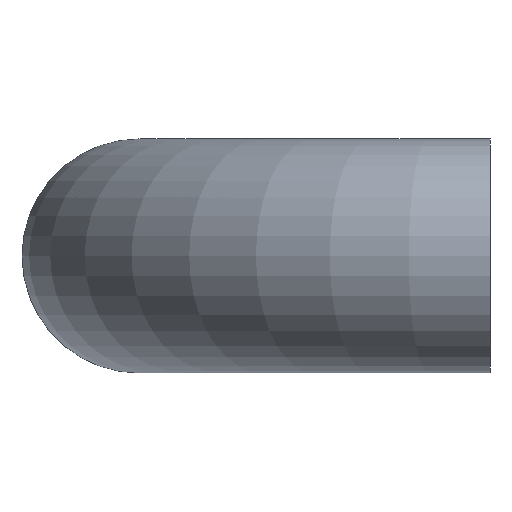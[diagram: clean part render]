
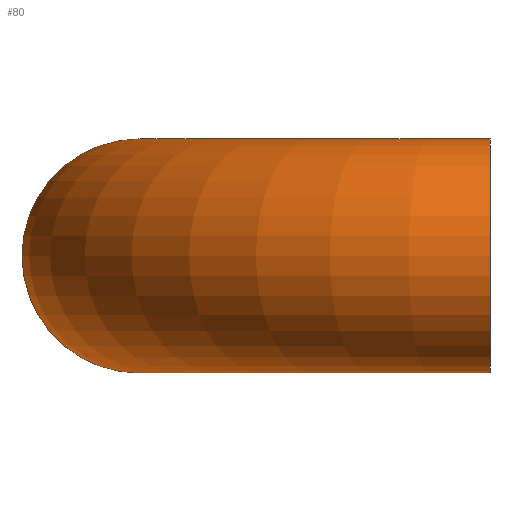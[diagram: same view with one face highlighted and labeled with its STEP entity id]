
A CAD part, left-side view. The second image highlights one B-rep face of the part: STEP entity #80.
In plain terms, the highlighted toroidal (fillet/blend) face has major radius 762 mm and minor radius 254 mm.
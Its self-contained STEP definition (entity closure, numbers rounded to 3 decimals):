
#20=FACE_OUTER_BOUND('',#24,.T.);
#24=EDGE_LOOP('',(#63,#64,#65,#66,#67,#68));
#34=CIRCLE('',#110,254.);
#35=CIRCLE('',#111,254.);
#36=CIRCLE('',#112,508.);
#37=CIRCLE('',#113,254.);
#38=CIRCLE('',#114,254.);
#43=VERTEX_POINT('',#159);
#44=VERTEX_POINT('',#160);
#45=VERTEX_POINT('',#163);
#46=VERTEX_POINT('',#165);
#52=EDGE_CURVE('',#43,#44,#34,.T.);
#53=EDGE_CURVE('',#44,#43,#35,.T.);
#54=EDGE_CURVE('',#44,#45,#36,.T.);
#55=EDGE_CURVE('',#45,#46,#37,.T.);
#56=EDGE_CURVE('',#46,#45,#38,.T.);
#63=ORIENTED_EDGE('',*,*,#52,.F.);
#64=ORIENTED_EDGE('',*,*,#53,.F.);
#65=ORIENTED_EDGE('',*,*,#54,.T.);
#66=ORIENTED_EDGE('',*,*,#55,.T.);
#67=ORIENTED_EDGE('',*,*,#56,.T.);
#68=ORIENTED_EDGE('',*,*,#54,.F.);
#78=TOROIDAL_SURFACE('',#109,762.,254.);
#80=ADVANCED_FACE('',(#20),#78,.T.);
#109=AXIS2_PLACEMENT_3D('',#158,#131,#132);
#110=AXIS2_PLACEMENT_3D('',#161,#133,#134);
#111=AXIS2_PLACEMENT_3D('',#162,#135,#136);
#112=AXIS2_PLACEMENT_3D('',#164,#137,#138);
#113=AXIS2_PLACEMENT_3D('',#166,#139,#140);
#114=AXIS2_PLACEMENT_3D('',#167,#141,#142);
#131=DIRECTION('center_axis',(0.,0.,-1.));
#132=DIRECTION('ref_axis',(-1.,0.,0.));
#133=DIRECTION('center_axis',(0.,-1.,0.));
#134=DIRECTION('ref_axis',(1.,0.,0.));
#135=DIRECTION('center_axis',(0.,-1.,0.));
#136=DIRECTION('ref_axis',(1.,0.,0.));
#137=DIRECTION('center_axis',(0.,0.,1.));
#138=DIRECTION('ref_axis',(-1.,0.,0.));
#139=DIRECTION('center_axis',(0.,1.,0.));
#140=DIRECTION('ref_axis',(-1.,0.,0.));
#141=DIRECTION('center_axis',(0.,1.,0.));
#142=DIRECTION('ref_axis',(-1.,0.,0.));
#158=CARTESIAN_POINT('Origin',(0.,0.,0.));
#159=CARTESIAN_POINT('',(1016.,0.,0.));
#160=CARTESIAN_POINT('',(508.,0.,0.));
#161=CARTESIAN_POINT('Origin',(762.,0.,0.));
#162=CARTESIAN_POINT('Origin',(762.,0.,0.));
#163=CARTESIAN_POINT('',(-508.,0.,0.));
#164=CARTESIAN_POINT('Origin',(0.,0.,0.));
#165=CARTESIAN_POINT('',(-1016.,0.,0.));
#166=CARTESIAN_POINT('Origin',(-762.,0.,0.));
#167=CARTESIAN_POINT('Origin',(-762.,0.,0.));
